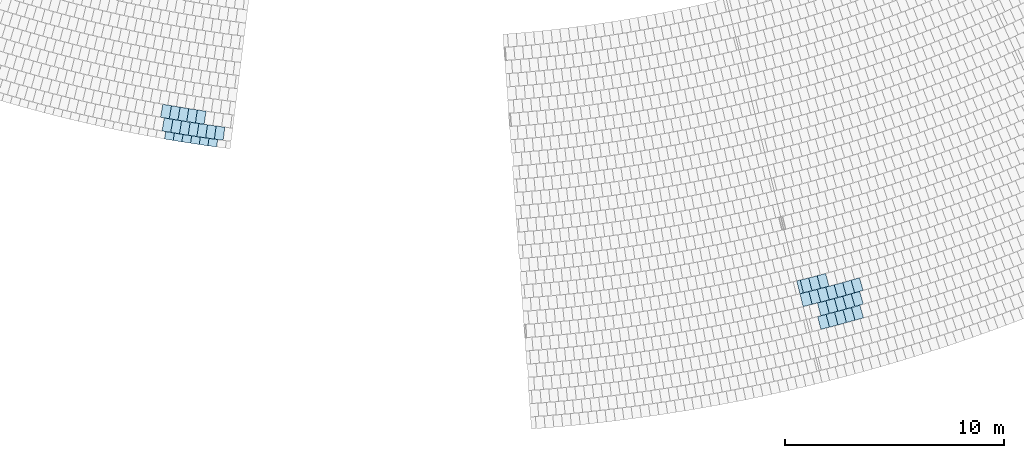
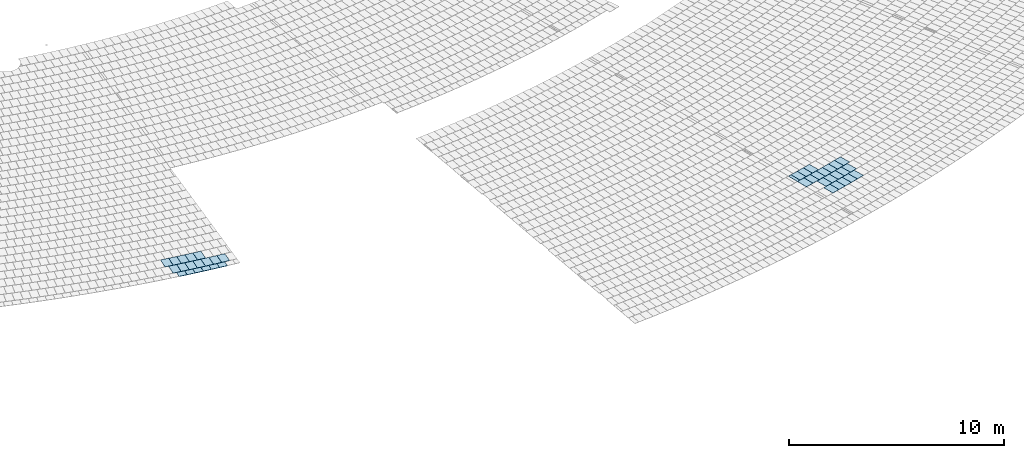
# One storey, part 32 of 438: 39 slabs.
"""IFC2X3 building model written with IfcOpenShell, lengths in millimetres."""

from ifc_helpers import new_model, entity, si_unit, converted_unit, derived_unit, direction, frame, frame_2d, origin, place, context, subcontext, project, spatial, polyline, rectangle, outline, extrude, material, layer, layer_set, layer_usage, type_object, element, save


model = new_model("IFC2X3")

# Units and contexts
model_context = context("Model", 3, precision=0.01, world=origin(), true_north=direction((6.123031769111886e-17, 1.0)))
body_context = subcontext(model_context, "Body", "Model", "MODEL_VIEW")
ifc_project = project(units=[si_unit("LENGTHUNIT", "METRE", prefix="MILLI"), si_unit("AREAUNIT", "SQUARE_METRE"), si_unit("VOLUMEUNIT", "CUBIC_METRE"), converted_unit("PLANEANGLEUNIT", "DEGREE", entity("IfcRatioMeasure", 0.017453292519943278), si_unit("PLANEANGLEUNIT", "RADIAN"), dimensions=[0, 0, 0, 0, 0, 0, 0]), si_unit("MASSUNIT", "GRAM", prefix="KILO"), derived_unit("MASSDENSITYUNIT", [(si_unit("MASSUNIT", "GRAM", prefix="KILO"), 1), (si_unit("LENGTHUNIT", "METRE"), -3)]), derived_unit("MOMENTOFINERTIAUNIT", [(si_unit("LENGTHUNIT", "METRE"), 4)]), si_unit("TIMEUNIT", "SECOND"), si_unit("FREQUENCYUNIT", "HERTZ"), si_unit("THERMODYNAMICTEMPERATUREUNIT", "DEGREE_CELSIUS"), derived_unit("THERMALTRANSMITTANCEUNIT", [(si_unit("MASSUNIT", "GRAM", prefix="KILO"), 1), (si_unit("THERMODYNAMICTEMPERATUREUNIT", "KELVIN"), -1), (si_unit("TIMEUNIT", "SECOND"), -3)]), derived_unit("THERMALCONDUCTANCEUNIT", [(si_unit("MASSUNIT", "GRAM", prefix="KILO"), 1), (si_unit("LENGTHUNIT", "METRE"), 1), (si_unit("THERMODYNAMICTEMPERATUREUNIT", "KELVIN"), -1), (si_unit("TIMEUNIT", "SECOND"), -3)]), derived_unit("VOLUMETRICFLOWRATEUNIT", [(si_unit("LENGTHUNIT", "METRE"), 3), (si_unit("TIMEUNIT", "SECOND"), -1)]), derived_unit("MASSFLOWRATEUNIT", [(si_unit("MASSUNIT", "GRAM", prefix="KILO"), 1), (si_unit("TIMEUNIT", "SECOND"), -1)]), derived_unit("ROTATIONALFREQUENCYUNIT", [(si_unit("TIMEUNIT", "SECOND"), -1)]), si_unit("ELECTRICCURRENTUNIT", "AMPERE"), si_unit("ELECTRICVOLTAGEUNIT", "VOLT"), si_unit("POWERUNIT", "WATT"), converted_unit("FORCEUNIT", "KIP", entity("IfcRatioMeasure", 2.088543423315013e-05), si_unit("FORCEUNIT", "NEWTON"), dimensions=[1, 1, -2, 0, 0, 0, 0]), si_unit("ILLUMINANCEUNIT", "LUX"), si_unit("LUMINOUSFLUXUNIT", "LUMEN"), si_unit("LUMINOUSINTENSITYUNIT", "CANDELA"), derived_unit("USERDEFINED", [(si_unit("MASSUNIT", "GRAM", prefix="KILO"), -1), (si_unit("LENGTHUNIT", "METRE"), -2), (si_unit("TIMEUNIT", "SECOND"), 3), (si_unit("LUMINOUSFLUXUNIT", "LUMEN"), 1)]), derived_unit("USERDEFINED", [(si_unit("MASSUNIT", "GRAM", prefix="KILO"), 1), (si_unit("LENGTHUNIT", "METRE"), 3), (si_unit("TIMEUNIT", "SECOND"), -3), (si_unit("ELECTRICCURRENTUNIT", "AMPERE"), -2)]), derived_unit("USERDEFINED", [(si_unit("LENGTHUNIT", "METRE"), 2), (si_unit("TIMEUNIT", "SECOND"), -2)]), derived_unit("SOUNDPOWERUNIT", [(si_unit("MASSUNIT", "GRAM", prefix="KILO"), 1), (si_unit("LENGTHUNIT", "METRE"), 2), (si_unit("TIMEUNIT", "SECOND"), -3)]), derived_unit("SOUNDPRESSUREUNIT", [(si_unit("MASSUNIT", "GRAM", prefix="KILO"), 1), (si_unit("LENGTHUNIT", "METRE"), -1), (si_unit("TIMEUNIT", "SECOND"), -2)]), derived_unit("LINEARVELOCITYUNIT", [(si_unit("LENGTHUNIT", "METRE"), 1), (si_unit("TIMEUNIT", "SECOND"), -1)]), si_unit("PRESSUREUNIT", "PASCAL"), derived_unit("USERDEFINED", [(si_unit("LENGTHUNIT", "METRE"), -2), (si_unit("MASSUNIT", "GRAM", prefix="KILO"), 1), (si_unit("TIMEUNIT", "SECOND"), -2)]), derived_unit("LINEARFORCEUNIT", [(si_unit("MASSUNIT", "GRAM", prefix="KILO"), 1), (si_unit("LENGTHUNIT", "METRE"), 1), (si_unit("TIMEUNIT", "SECOND"), -2), (si_unit("LENGTHUNIT", "METRE"), -1)]), derived_unit("PLANARFORCEUNIT", [(si_unit("MASSUNIT", "GRAM", prefix="KILO"), 1), (si_unit("LENGTHUNIT", "METRE"), 1), (si_unit("TIMEUNIT", "SECOND"), -2), (si_unit("LENGTHUNIT", "METRE"), -2)]), derived_unit("SPECIFICHEATCAPACITYUNIT", [(si_unit("LENGTHUNIT", "METRE"), 2), (si_unit("TIMEUNIT", "SECOND"), -2), (si_unit("THERMODYNAMICTEMPERATUREUNIT", "KELVIN"), -1)]), derived_unit("VAPORPERMEABILITYUNIT", [(si_unit("TIMEUNIT", "SECOND"), 1), (si_unit("LENGTHUNIT", "METRE"), -1)]), derived_unit("DYNAMICVISCOSITYUNIT", [(si_unit("MASSUNIT", "GRAM", prefix="KILO"), 1), (si_unit("LENGTHUNIT", "METRE"), -1), (si_unit("TIMEUNIT", "SECOND"), -1)]), derived_unit("THERMALEXPANSIONCOEFFICIENTUNIT", [(si_unit("THERMODYNAMICTEMPERATUREUNIT", "KELVIN"), -1)])], contexts=[model_context])

# Site, building, storey
site_placement = place(None, frame((0.0, 0.0, 0.0), z_axis=(0.0, 0.0, 1.0), x_axis=(0.8191520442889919, 0.5735764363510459, 0.0)))
site = spatial("IfcSite", under=ifc_project, at=site_placement, Name="Default", CompositionType="ELEMENT")
building_placement = place(site_placement, origin())
building = spatial("IfcBuilding", under=site, at=building_placement, CompositionType="ELEMENT")
storey_placement = place(building_placement, origin())
storey = spatial("IfcBuildingStorey", under=building, at=storey_placement, Name="PLAN", CompositionType="ELEMENT", Elevation=0.0)

# Slabs
ifc_material = material(Name="Paint-01")
ifc_layer = layer(ifc_material, 20.00000000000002)
ifc_layer_set = layer_set([ifc_layer], Name="Floor:Slab-179:1000")
ifc_layer_usage = layer_usage(ifc_layer_set, "AXIS3", "POSITIVE", 0.0)
slab_type = type_object("IfcSlabType", Name="Floor:Slab-179:1000", PredefinedType="FLOOR", material=ifc_layer_set)
slab_1_placement = place(storey_placement, origin())
element("IfcSlab", 1, at=slab_1_placement, inside=storey, type_object=slab_type, material=ifc_layer_usage, Name="Floor:Slab-179:1000", ObjectType="Floor:Slab-179:1000", PredefinedType="FLOOR", context=body_context, shape_type="SweptSolid", body=[
    extrude(outline(polyline([(-299.9999976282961, -200.0000029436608), (300.0, -200.00000294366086), (299.9999976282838, 200.00000294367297), (-300.0, 200.00000294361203), (-299.9999976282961, -200.0000029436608)])), frame((-85411.68512364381, -113711.67019212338, 520.0), z_axis=(0.0, 0.0, -1.0), x_axis=(-0.7018378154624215, -0.7123367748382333, 0.0)), (0.0, 0.0, 1.0), 20.000000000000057),
])
slab_2_placement = place(storey_placement, origin())
element("IfcSlab", 2, at=slab_2_placement, inside=storey, type_object=slab_type, material=ifc_layer_usage, Name="Floor:Slab-179:1000", ObjectType="Floor:Slab-179:1000", PredefinedType="FLOOR", context=body_context, shape_type="SweptSolid", body=[
    extrude(rectangle(XDim=599.9995876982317, YDim=399.99973276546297, at=frame_2d((0.0, 1.2249756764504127e-11), x_axis=(1.0, 0.0))), frame((-85697.48481586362, -113428.64275081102, 520.0), z_axis=(0.0, 0.0, -1.0), x_axis=(-0.7071067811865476, -0.7071067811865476, 0.0)), (0.0, 0.0, 1.0), 19.999999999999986),
])
slab_3_placement = place(storey_placement, origin())
element("IfcSlab", 3, at=slab_3_placement, inside=storey, type_object=slab_type, material=ifc_layer_usage, Name="Floor:Slab-179:1000", ObjectType="Floor:Slab-179:1000", PredefinedType="FLOOR", context=body_context, shape_type="SweptSolid", body=[
    extrude(outline(polyline([(-299.999997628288, -200.00000294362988), (300.0, -200.0000029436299), (299.9999976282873, 200.00000294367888), (-300.0, 200.0000029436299), (-299.999997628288, -200.00000294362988)])), frame((-85124.53426711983, -113992.82428207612, 520.0), z_axis=(0.0, 0.0, -1.0), x_axis=(-0.6973681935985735, -0.7167130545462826, 0.0)), (0.0, 0.0, 1.0), 19.999999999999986),
])
slab_4_placement = place(storey_placement, origin())
element("IfcSlab", 4, at=slab_4_placement, inside=storey, type_object=slab_type, material=ifc_layer_usage, Name="Floor:Slab-179:1000", ObjectType="Floor:Slab-179:1000", PredefinedType="FLOOR", context=body_context, shape_type="SweptSolid", body=[
    extrude(outline(polyline([(-299.9999976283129, -200.00000294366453), (300.0, -200.00000294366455), (299.9999976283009, 200.00000294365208), (-300.0, 200.00000294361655), (-299.9999976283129, -200.00000294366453)])), frame((-84835.63032132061, -114272.17665239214, 520.0), z_axis=(0.0, 0.0, -1.0), x_axis=(-0.6928712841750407, -0.7210612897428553, 0.0)), (0.0, 0.0, 1.0), 20.000000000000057),
])
slab_5_placement = place(storey_placement, origin())
element("IfcSlab", 5, at=slab_5_placement, inside=storey, type_object=slab_type, material=ifc_layer_usage, Name="Floor:Slab-179:1000", ObjectType="Floor:Slab-179:1000", PredefinedType="FLOOR", context=body_context, shape_type="SweptSolid", body=[
    extrude(outline(polyline([(-299.9999976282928, -200.00000294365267), (300.0, -200.00000294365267), (299.9999976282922, 200.00000294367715), (-300.0, 200.00000294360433), (-299.9999976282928, -200.00000294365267)])), frame((-84544.98459086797, -114549.71637219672, 520.0), z_axis=(0.0, 0.0, -1.0), x_axis=(-0.6883472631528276, -0.7253813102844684, 0.0)), (0.0, 0.0, 1.0), 19.999999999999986),
])
slab_6_placement = place(storey_placement, origin())
element("IfcSlab", 6, at=slab_6_placement, inside=storey, type_object=slab_type, material=ifc_layer_usage, Name="Floor:Slab-179:1000", ObjectType="Floor:Slab-179:1000", PredefinedType="FLOOR", context=body_context, shape_type="SweptSolid", body=[
    extrude(outline(polyline([(-299.9999976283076, -200.000002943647), (300.0, -200.000002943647), (299.9999976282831, 200.00000294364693), (-300.0, 200.00000294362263), (-299.9999976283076, -200.000002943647)])), frame((-86000.8028108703, -113979.97345379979, 520.0), z_axis=(0.0, 0.0, -1.0), x_axis=(-0.704374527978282, -0.7098285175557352, 0.0)), (0.0, 0.0, 1.0), 20.000000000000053),
])
slab_7_placement = place(storey_placement, origin())
element("IfcSlab", 7, at=slab_7_placement, inside=storey, type_object=slab_type, material=ifc_layer_usage, Name="Floor:Slab-179:1000", ObjectType="Floor:Slab-179:1000", PredefinedType="FLOOR", context=body_context, shape_type="SweptSolid", body=[
    extrude(outline(polyline([(-299.9999976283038, -200.00000294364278), (300.0, -200.0000029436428), (299.9999976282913, 200.00000294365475), (-300.0, 200.00000294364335), (-299.9999976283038, -200.00000294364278)])), frame((-85137.20890899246, -114821.1455724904, 520.0), z_axis=(0.0, 0.0, -1.0), x_axis=(-0.6910577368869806, -0.7227995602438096, 0.0)), (0.0, 0.0, 1.0), 20.000000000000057),
])
slab_8_placement = place(storey_placement, origin())
element("IfcSlab", 8, at=slab_8_placement, inside=storey, type_object=slab_type, material=ifc_layer_usage, Name="Floor:Slab-179:1000", ObjectType="Floor:Slab-179:1000", PredefinedType="FLOOR", context=body_context, shape_type="SweptSolid", body=[
    extrude(outline(polyline([(-299.9999976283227, -200.0000029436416), (300.0, -200.0000029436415), (299.999997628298, 200.0000029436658), (-300.0, 200.00000294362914), (-299.9999976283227, -200.0000029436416)])), frame((-85714.67753500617, -114262.14619549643, 520.0), z_axis=(0.0, 0.0, -1.0), x_axis=(-0.6999624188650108, -0.7141796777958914, 0.0)), (0.0, 0.0, 1.0), 20.000000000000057),
])
slab_9_placement = place(storey_placement, origin())
element("IfcSlab", 9, at=slab_9_placement, inside=storey, type_object=slab_type, material=ifc_layer_usage, Name="Floor:Slab-179:1000", ObjectType="Floor:Slab-179:1000", PredefinedType="FLOOR", context=body_context, shape_type="SweptSolid", body=[
    extrude(outline(polyline([(-299.99999762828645, -200.000002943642), (300.0, -200.000002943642), (299.99999762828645, 200.000002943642), (-300.0, 200.00000294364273), (-299.99999762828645, -200.000002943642)])), frame((-85426.80921639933, -114542.54049070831, 520.0), z_axis=(0.0, 0.0, -1.0), x_axis=(-0.6955234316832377, -0.718503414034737, 0.0)), (0.0, 0.0, 1.0), 20.000000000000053),
])
slab_10_placement = place(storey_placement, origin())
element("IfcSlab", 10, at=slab_10_placement, inside=storey, type_object=slab_type, material=ifc_layer_usage, Name="Floor:Slab-179:1000", ObjectType="Floor:Slab-179:1000", PredefinedType="FLOOR", context=body_context, shape_type="SweptSolid", body=[
    extrude(outline(polyline([(-299.9999976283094, -200.00000294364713), (300.0, -200.00000294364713), (299.99999762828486, 200.00000294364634), (-300.0, 200.0000029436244), (-299.9999976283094, -200.00000294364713)])), frame((-84552.85687565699, -115372.9453719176, 520.0), z_axis=(0.0, 0.0, -1.0), x_axis=(-0.6820469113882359, -0.7313084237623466, 0.0)), (0.0, 0.0, 1.0), 19.99999999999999),
])
slab_11_placement = place(storey_placement, origin())
element("IfcSlab", 11, at=slab_11_placement, inside=storey, type_object=slab_type, material=ifc_layer_usage, Name="Floor:Slab-179:1000", ObjectType="Floor:Slab-179:1000", PredefinedType="FLOOR", context=body_context, shape_type="SweptSolid", body=[
    extrude(outline(polyline([(-299.9999976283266, -200.00000294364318), (300.0, -200.00000294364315), (299.9999976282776, 200.0000029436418), (-300.0, 200.00000294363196), (-299.9999976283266, -200.00000294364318)])), frame((-84845.88773323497, -115097.95074260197, 520.0), z_axis=(0.0, 0.0, -1.0), x_axis=(-0.6865655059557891, -0.7270679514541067, 0.0)), (0.0, 0.0, 1.0), 20.000000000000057),
])
slab_12_placement = place(storey_placement, origin())
element("IfcSlab", 12, at=slab_12_placement, inside=storey, type_object=slab_type, material=ifc_layer_usage, Name="Floor:Slab-179:1000", ObjectType="Floor:Slab-179:1000", PredefinedType="FLOOR", context=body_context, shape_type="SweptSolid", body=[
    extrude(outline(polyline([(-299.9999976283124, -200.00000294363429), (300.0, -200.00000294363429), (299.9999976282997, 200.00000294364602), (-300.0, 200.00000294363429), (-299.9999976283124, -200.00000294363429)])), frame((-84258.12758843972, -115646.1189008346, 520.0), z_axis=(0.0, 0.0, -1.0), x_axis=(-0.6775021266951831, -0.7355208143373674, 0.0)), (0.0, 0.0, 1.0), 19.99999999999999),
])
slab_13_placement = place(storey_placement, origin())
element("IfcSlab", 13, at=slab_13_placement, inside=storey, type_object=slab_type, material=ifc_layer_usage, Name="Floor:Slab-179:1000", ObjectType="Floor:Slab-179:1000", PredefinedType="FLOOR", context=body_context, shape_type="SweptSolid", body=[
    extrude(outline(polyline([(-169.99999762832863, -200.00000294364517), (170.0, -200.00000294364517), (169.99999762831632, 200.0000029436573), (-170.0, 200.00000294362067), (-169.99999762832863, -200.00000294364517)])), frame((-86212.89573408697, -114438.36563126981, 520.0), z_axis=(0.0, 0.0, -1.0), x_axis=(-0.7024995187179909, -0.7116842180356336, 0.0)), (0.0, 0.0, 1.0), 20.000000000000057),
])
slab_14_placement = place(storey_placement, origin())
element("IfcSlab", 14, at=slab_14_placement, inside=storey, type_object=slab_type, material=ifc_layer_usage, Name="Floor:Slab-179:1000", ObjectType="Floor:Slab-179:1000", PredefinedType="FLOOR", context=body_context, shape_type="SweptSolid", body=[
    extrude(outline(polyline([(-169.99999762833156, -200.00000294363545), (170.0, -200.00000294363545), (169.99999762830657, 200.0000029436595), (-170.0, 200.00000294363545), (-169.99999762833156, -200.00000294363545)])), frame((-85638.61979845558, -114998.31128073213, 520.0), z_axis=(0.0, 0.0, -1.0), x_axis=(-0.6937084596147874, -0.7202559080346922, 0.0)), (0.0, 0.0, 1.0), 19.999999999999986),
])
slab_15_placement = place(storey_placement, origin())
element("IfcSlab", 15, at=slab_15_placement, inside=storey, type_object=slab_type, material=ifc_layer_usage, Name="Floor:Slab-179:1000", ObjectType="Floor:Slab-179:1000", PredefinedType="FLOOR", context=body_context, shape_type="SweptSolid", body=[
    extrude(outline(polyline([(-169.99999762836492, -200.000002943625), (170.0, -200.000002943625), (169.9999976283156, 200.00000294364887), (-170.0, 200.0000029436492), (-169.99999762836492, -200.000002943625)])), frame((-85926.61717177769, -114719.2198556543, 520.0), z_axis=(0.0, 0.0, -1.0), x_axis=(-0.698117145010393, -0.7159835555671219, 0.0)), (0.0, 0.0, 1.0), 20.000000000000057),
])
slab_16_placement = place(storey_placement, origin())
element("IfcSlab", 16, at=slab_16_placement, inside=storey, type_object=slab_type, material=ifc_layer_usage, Name="Floor:Slab-179:1000", ObjectType="Floor:Slab-179:1000", PredefinedType="FLOOR", context=body_context, shape_type="SweptSolid", body=[
    extrude(outline(polyline([(-169.99999762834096, -200.0000029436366), (170.0, -200.00000294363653), (169.99999762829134, 200.00000294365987), (-170.0, 200.00000294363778), (-169.99999762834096, -200.0000029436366)])), frame((-85348.91446859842, -115275.6293876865, 520.0), z_axis=(0.0, 0.0, -1.0), x_axis=(-0.68927362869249, -0.7245011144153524, 0.0)), (0.0, 0.0, 1.0), 20.000000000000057),
])
slab_17_placement = place(storey_placement, origin())
element("IfcSlab", 17, at=slab_17_placement, inside=storey, type_object=slab_type, material=ifc_layer_usage, Name="Floor:Slab-179:1000", ObjectType="Floor:Slab-179:1000", PredefinedType="FLOOR", context=body_context, shape_type="SweptSolid", body=[
    extrude(outline(polyline([(-169.99999762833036, -200.00000294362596), (170.0, -200.00000294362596), (169.99999762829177, 200.000002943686), (-170.0, 200.00000294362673), (-169.99999762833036, -200.00000294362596)])), frame((-85057.51210105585, -115551.16372453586, 520.0), z_axis=(0.0, 0.0, -1.0), x_axis=(-0.6848128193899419, -0.72871901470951, 0.0)), (0.0, 0.0, 1.0), 20.000000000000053),
])
slab_18_placement = place(storey_placement, origin())
element("IfcSlab", 18, at=slab_18_placement, inside=storey, type_object=slab_type, material=ifc_layer_usage, Name="Floor:Slab-179:1000", ObjectType="Floor:Slab-179:1000", PredefinedType="FLOOR", context=body_context, shape_type="SweptSolid", body=[
    extrude(outline(polyline([(-169.9999976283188, -200.00000294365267), (170.0, -200.00000294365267), (169.9999976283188, 200.00000294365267), (-170.0, 200.00000294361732), (-169.9999976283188, -200.00000294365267)])), frame((-84764.42367863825, -115824.90390652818, 520.0), z_axis=(0.0, 0.0, -1.0), x_axis=(-0.6803261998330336, -0.732909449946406, 0.0)), (0.0, 0.0, 1.0), 20.000000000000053),
])
slab_19_placement = place(storey_placement, origin())
element("IfcSlab", 19, at=slab_19_placement, inside=storey, type_object=slab_type, material=ifc_layer_usage, Name="Floor:Slab-179:1000", ObjectType="Floor:Slab-179:1000", PredefinedType="FLOOR", context=body_context, shape_type="SweptSolid", body=[
    extrude(outline(polyline([(-300.0000010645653, -200.00000294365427), (299.999998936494, -200.00000294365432), (300.0000010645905, 200.0000029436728), (-299.99999893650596, 200.00000294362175), (-300.0000010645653, -200.00000294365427)])), frame((-65537.51304369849, -137002.92633834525, 20.0), z_axis=(0.0, 0.0, -1.0), x_axis=(-0.34299664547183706, -0.9393366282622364, 0.0)), (0.0, 0.0, 1.0), 20.00000000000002),
])
slab_20_placement = place(storey_placement, origin())
element("IfcSlab", 20, at=slab_20_placement, inside=storey, type_object=slab_type, material=ifc_layer_usage, Name="Floor:Slab-179:1000", ObjectType="Floor:Slab-179:1000", PredefinedType="FLOOR", context=body_context, shape_type="SweptSolid", body=[
    extrude(outline(polyline([(-300.0000010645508, -200.00000294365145), (299.9999989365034, -200.00000294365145), (300.0000010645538, 200.00000294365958), (-299.9999989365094, 200.00000294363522), (-300.0000010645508, -200.00000294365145)])), frame((-65914.40815014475, -136864.13594665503, 20.0), z_axis=(0.0, 0.0, -1.0), x_axis=(-0.3481234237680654, -0.9374487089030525, 0.0)), (0.0, 0.0, 1.0), 20.000000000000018),
])
slab_21_placement = place(storey_placement, origin())
element("IfcSlab", 21, at=slab_21_placement, inside=storey, type_object=slab_type, material=ifc_layer_usage, Name="Floor:Slab-179:1000", ObjectType="Floor:Slab-179:1000", PredefinedType="FLOOR", context=body_context, shape_type="SweptSolid", body=[
    extrude(outline(polyline([(-300.0000010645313, -200.0000029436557), (299.9999989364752, -200.00000294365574), (300.00000106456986, 200.00000294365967), (-299.9999989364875, 200.00000294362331), (-300.0000010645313, -200.0000029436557)])), frame((-66290.53937537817, -136723.28852746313, 20.0), z_axis=(0.0, 0.0, -1.0), x_axis=(-0.35323981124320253, -0.9355328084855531, 0.0)), (0.0, 0.0, 1.0), 20.00000000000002),
])
slab_22_placement = place(storey_placement, origin())
element("IfcSlab", 22, at=slab_22_placement, inside=storey, type_object=slab_type, material=ifc_layer_usage, Name="Floor:Slab-179:1000", ObjectType="Floor:Slab-179:1000", PredefinedType="FLOOR", context=body_context, shape_type="SweptSolid", body=[
    extrude(outline(polyline([(-300.0, -82.39035853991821), (300.0, -82.39035853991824), (300.0, 82.39035853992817), (-300.0, 82.39035853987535), (-300.0, -82.39035853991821)])), frame((-66556.09642392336, -136622.53318929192, 20.0), z_axis=(0.0, 0.0, -1.0), x_axis=(-0.3583456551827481, -0.9335889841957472, 0.0)), (0.0, 0.0, 1.0), 20.00000000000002),
])
slab_23_placement = place(storey_placement, origin())
element("IfcSlab", 23, at=slab_23_placement, inside=storey, type_object=slab_type, material=ifc_layer_usage, Name="Floor:Slab-179:1000", ObjectType="Floor:Slab-179:1000", PredefinedType="FLOOR", context=body_context, shape_type="SweptSolid", body=[
    extrude(outline(polyline([(-300.00000106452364, -200.00000294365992), (299.99999893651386, -200.00000294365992), (300.0000010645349, 200.00000294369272), (-299.99999893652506, 200.00000294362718), (-300.00000106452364, -200.00000294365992)])), frame((-64376.177997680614, -138055.91342222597, 20.0), z_axis=(0.0, 0.0, -1.0), x_axis=(-0.32452864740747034, -0.9458758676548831, 0.0)), (0.0, 0.0, 1.0), 20.00000000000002),
])
slab_24_placement = place(storey_placement, origin())
element("IfcSlab", 24, at=slab_24_placement, inside=storey, type_object=slab_type, material=ifc_layer_usage, Name="Floor:Slab-179:1000", ObjectType="Floor:Slab-179:1000", PredefinedType="FLOOR", context=body_context, shape_type="SweptSolid", body=[
    extrude(outline(polyline([(-300.00000106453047, -200.00000294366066), (299.99999893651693, -200.00000294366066), (300.0000010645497, 200.00000294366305), (-299.99999893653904, 200.00000294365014), (-300.00000106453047, -200.00000294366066)])), frame((-65134.52467256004, -137791.12429851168, 20.0), z_axis=(0.0, 0.0, -1.0), x_axis=(-0.3347599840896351, -0.9423034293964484, 0.0)), (0.0, 0.0, 1.0), 20.00000000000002),
])
slab_25_placement = place(storey_placement, origin())
element("IfcSlab", 25, at=slab_25_placement, inside=storey, type_object=slab_type, material=ifc_layer_usage, Name="Floor:Slab-179:1000", ObjectType="Floor:Slab-179:1000", PredefinedType="FLOOR", context=body_context, shape_type="SweptSolid", body=[
    extrude(outline(polyline([(-300.0000010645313, -200.0000029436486), (299.9999989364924, -200.0000029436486), (300.0000010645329, 200.00000294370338), (-299.9999989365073, 200.000002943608), (-300.0000010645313, -200.0000029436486)])), frame((-65889.95731435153, -137518.1325714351, 20.0), z_axis=(0.0, 0.0, -1.0), x_axis=(-0.3449520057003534, -0.9386203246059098, 0.0)), (0.0, 0.0, 1.0), 20.00000000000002),
])
slab_26_placement = place(storey_placement, origin())
element("IfcSlab", 26, at=slab_26_placement, inside=storey, type_object=slab_type, material=ifc_layer_usage, Name="Floor:Slab-179:1000", ObjectType="Floor:Slab-179:1000", PredefinedType="FLOOR", context=body_context, shape_type="SweptSolid", body=[
    extrude(outline(polyline([(-300.0000010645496, -200.00000294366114), (299.9999989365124, -200.00000294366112), (300.0000010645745, 200.00000294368), (-299.99999893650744, 200.0000029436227), (-300.0000010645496, -200.00000294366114)])), frame((-64755.71003076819, -137924.5461520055, 20.0), z_axis=(0.0, 0.0, -1.0), x_axis=(-0.3296491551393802, -0.9441035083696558, 0.0)), (0.0, 0.0, 1.0), 20.00000000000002),
])
slab_27_placement = place(storey_placement, origin())
element("IfcSlab", 27, at=slab_27_placement, inside=storey, type_object=slab_type, material=ifc_layer_usage, Name="Floor:Slab-179:1000", ObjectType="Floor:Slab-179:1000", PredefinedType="FLOOR", context=body_context, shape_type="SweptSolid", body=[
    extrude(outline(polyline([(-300.00000106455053, -200.00000294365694), (299.9999989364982, -200.00000294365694), (300.000001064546, 200.00000294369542), (-299.9999989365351, 200.00000294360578), (-300.00000106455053, -200.00000294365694)])), frame((-65512.61080073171, -137655.6517791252, 20.0), z_axis=(0.0, 0.0, -1.0), x_axis=(-0.3398609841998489, -0.9404756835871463, 0.0)), (0.0, 0.0, 1.0), 20.00000000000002),
])
slab_28_placement = place(storey_placement, origin())
element("IfcSlab", 28, at=slab_28_placement, inside=storey, type_object=slab_type, material=ifc_layer_usage, Name="Floor:Slab-179:1000", ObjectType="Floor:Slab-179:1000", PredefinedType="FLOOR", context=body_context, shape_type="SweptSolid", body=[
    extrude(outline(polyline([(-300.00000112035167, -210.48438196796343), (299.99999888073, -210.48438196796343), (300.00000112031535, 210.48438196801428), (-299.9999988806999, 210.48438196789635), (-300.00000112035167, -210.48438196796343)])), frame((-66652.18828357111, -137233.24726204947, 20.0), z_axis=(0.0, 0.0, -1.0), x_axis=(-0.3551035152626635, -0.9348269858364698, 0.0)), (0.0, 0.0, 1.0), 20.00000000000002),
])
slab_29_placement = place(storey_placement, origin())
element("IfcSlab", 29, at=slab_29_placement, inside=storey, type_object=slab_type, material=ifc_layer_usage, Name="Floor:Slab-179:1000", ObjectType="Floor:Slab-179:1000", PredefinedType="FLOOR", context=body_context, shape_type="SweptSolid", body=[
    extrude(outline(polyline([(-300.0000010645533, -200.00000294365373), (299.9999989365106, -200.0000029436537), (300.00000106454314, 200.00000294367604), (-299.9999989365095, 200.00000294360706), (-300.0000010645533, -200.00000294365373)])), frame((-66266.55313420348, -137378.57071312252, 20.0), z_axis=(0.0, 0.0, -1.0), x_axis=(-0.35003289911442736, -0.9367374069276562, 0.0)), (0.0, 0.0, 1.0), 20.000000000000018),
])
slab_30_placement = place(storey_placement, origin())
element("IfcSlab", 30, at=slab_30_placement, inside=storey, type_object=slab_type, material=ifc_layer_usage, Name="Floor:Slab-179:1000", ObjectType="Floor:Slab-179:1000", PredefinedType="FLOOR", context=body_context, shape_type="SweptSolid", body=[
    extrude(outline(polyline([(-300.0000010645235, -200.00000294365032), (299.9999989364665, -200.00000294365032), (300.00000106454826, 200.00000294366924), (-299.99999893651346, 200.0000029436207), (-300.0000010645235, -200.00000294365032)])), frame((-64729.70541963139, -138574.04197582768, 20.0), z_axis=(0.0, 0.0, -1.0), x_axis=(-0.3266321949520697, -0.9451515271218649, 0.0)), (0.0, 0.0, 1.0), 20.00000000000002),
])
slab_31_placement = place(storey_placement, origin())
element("IfcSlab", 31, at=slab_31_placement, inside=storey, type_object=slab_type, material=ifc_layer_usage, Name="Floor:Slab-179:1000", ObjectType="Floor:Slab-179:1000", PredefinedType="FLOOR", context=body_context, shape_type="SweptSolid", body=[
    extrude(outline(polyline([(-300.0000010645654, -200.00000294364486), (299.9999989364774, -200.00000294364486), (300.0000010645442, 200.00000294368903), (-299.99999893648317, 200.00000294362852), (-300.0000010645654, -200.00000294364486)])), frame((-65108.93470867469, -138441.8433556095, 20.0), z_axis=(0.0, 0.0, -1.0), x_axis=(-0.33170719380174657, -0.9433823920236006, 0.0)), (0.0, 0.0, 1.0), 20.00000000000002),
])
slab_32_placement = place(storey_placement, origin())
element("IfcSlab", 32, at=slab_32_placement, inside=storey, type_object=slab_type, material=ifc_layer_usage, Name="Floor:Slab-179:1000", ObjectType="Floor:Slab-179:1000", PredefinedType="FLOOR", context=body_context, shape_type="SweptSolid", body=[
    extrude(outline(polyline([(-300.00000106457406, -200.00000294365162), (299.9999989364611, -200.0000029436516), (300.00000106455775, 200.00000294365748), (-299.99999893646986, 200.00000294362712), (-300.00000106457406, -200.00000294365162)])), frame((-65487.4480192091, -138307.60847711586, 20.0), z_axis=(0.0, 0.0, -1.0), x_axis=(-0.33677261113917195, -0.9415860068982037, 0.0)), (0.0, 0.0, 1.0), 20.00000000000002),
])
slab_33_placement = place(storey_placement, origin())
element("IfcSlab", 33, at=slab_33_placement, inside=storey, type_object=slab_type, material=ifc_layer_usage, Name="Floor:Slab-179:1000", ObjectType="Floor:Slab-179:1000", PredefinedType="FLOOR", context=body_context, shape_type="SweptSolid", body=[
    extrude(outline(polyline([(-300.00000106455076, -200.00000294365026), (299.9999989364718, -200.0000029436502), (300.0000010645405, 200.00000294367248), (-299.99999893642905, 200.00000294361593), (-300.00000106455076, -200.00000294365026)])), frame((-66242.28299163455, -138033.0455137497, 20.0), z_axis=(0.0, 0.0, -1.0), x_axis=(-0.3468741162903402, -0.9379116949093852, 0.0)), (0.0, 0.0, 1.0), 20.00000000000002),
])
slab_34_placement = place(storey_placement, origin())
element("IfcSlab", 34, at=slab_34_placement, inside=storey, type_object=slab_type, material=ifc_layer_usage, Name="Floor:Slab-179:1000", ObjectType="Floor:Slab-179:1000", PredefinedType="FLOOR", context=body_context, shape_type="SweptSolid", body=[
    extrude(outline(polyline([(-300.00000106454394, -200.00000294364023), (299.9999989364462, -200.00000294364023), (300.0000010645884, 200.00000294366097), (-299.9999989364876, 200.00000294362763), (-300.00000106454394, -200.00000294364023)])), frame((-65865.23441770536, -138171.34121778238, 20.0), z_axis=(0.0, 0.0, -1.0), x_axis=(-0.34182830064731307, -0.9397624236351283, 0.0)), (0.0, 0.0, 1.0), 20.000000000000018),
])
slab_35_placement = place(storey_placement, origin())
element("IfcSlab", 35, at=slab_35_placement, inside=storey, type_object=slab_type, material=ifc_layer_usage, Name="Floor:Slab-179:1000", ObjectType="Floor:Slab-179:1000", PredefinedType="FLOOR", context=body_context, shape_type="SweptSolid", body=[
    extrude(outline(polyline([(-300.0000010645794, -200.00000294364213), (299.9999989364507, -200.00000294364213), (300.0000010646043, 200.00000294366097), (-299.99999893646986, 200.00000294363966), (-300.0000010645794, -200.00000294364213)])), frame((-65083.103824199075, -139091.83010590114, 20.0), z_axis=(0.0, 0.0, -1.0), x_axis=(-0.3287002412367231, -0.9444343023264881, 0.0)), (0.0, 0.0, 1.0), 20.000000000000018),
])
slab_36_placement = place(storey_placement, origin())
element("IfcSlab", 36, at=slab_36_placement, inside=storey, type_object=slab_type, material=ifc_layer_usage, Name="Floor:Slab-179:1000", ObjectType="Floor:Slab-179:1000", PredefinedType="FLOOR", context=body_context, shape_type="SweptSolid", body=[
    extrude(outline(polyline([(-300.0000010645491, -200.00000294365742), (299.99999893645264, -200.00000294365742), (300.0000010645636, 200.00000294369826), (-299.9999989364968, 200.00000294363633), (-300.0000010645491, -200.00000294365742)])), frame((-65462.03347419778, -138958.81422231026, 20.0), z_axis=(0.0, 0.0, -1.0), x_axis=(-0.33373050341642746, -0.942668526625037, 0.0)), (0.0, 0.0, 1.0), 20.000000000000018),
])
slab_37_placement = place(storey_placement, origin())
element("IfcSlab", 37, at=slab_37_placement, inside=storey, type_object=slab_type, material=ifc_layer_usage, Name="Floor:Slab-179:1000", ObjectType="Floor:Slab-179:1000", PredefinedType="FLOOR", context=body_context, shape_type="SweptSolid", body=[
    extrude(outline(polyline([(-300.0000010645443, -200.0000029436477), (299.9999989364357, -200.0000029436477), (300.0000010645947, 200.0000029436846), (-299.99999893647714, 200.00000294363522), (-300.0000010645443, -200.0000029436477)])), frame((-66217.73848203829, -138686.73155652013, 20.0), z_axis=(0.0, 0.0, -1.0), x_axis=(-0.34376242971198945, -0.9390566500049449, 0.0)), (0.0, 0.0, 1.0), 20.00000000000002),
])
slab_38_placement = place(storey_placement, origin())
element("IfcSlab", 38, at=slab_38_placement, inside=storey, type_object=slab_type, material=ifc_layer_usage, Name="Floor:Slab-179:1000", ObjectType="Floor:Slab-179:1000", PredefinedType="FLOOR", context=body_context, shape_type="SweptSolid", body=[
    extrude(outline(polyline([(-300.00000106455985, -200.0000029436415), (299.99999893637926, -200.0000029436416), (300.0000010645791, 200.0000029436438), (-299.9999989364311, 200.00000294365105), (-300.00000106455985, -200.0000029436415)])), frame((-65840.24860995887, -138823.7800932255, 20.0), z_axis=(0.0, 0.0, -1.0), x_axis=(-0.3387512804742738, -0.9408759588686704, 0.0)), (0.0, 0.0, 1.0), 20.00000000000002),
])
slab_39_placement = place(storey_placement, origin())
element("IfcSlab", 39, at=slab_39_placement, inside=storey, type_object=slab_type, material=ifc_layer_usage, Name="Floor:Slab-179:1000", ObjectType="Floor:Slab-179:1000", PredefinedType="FLOOR", context=body_context, shape_type="SweptSolid", body=[
    extrude(outline(polyline([(-300.0000010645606, -200.0000029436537), (299.99999893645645, -200.0000029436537), (300.0000010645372, 200.0000029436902), (-299.999998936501, 200.00000294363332), (-300.0000010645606, -200.0000029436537)])), frame((-66594.49236160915, -138547.6725073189, 20.0), z_axis=(0.0, 0.0, -1.0), x_axis=(-0.3487638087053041, -0.9372106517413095, 0.0)), (0.0, 0.0, 1.0), 20.00000000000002),
])

save(model, "model.ifc")
